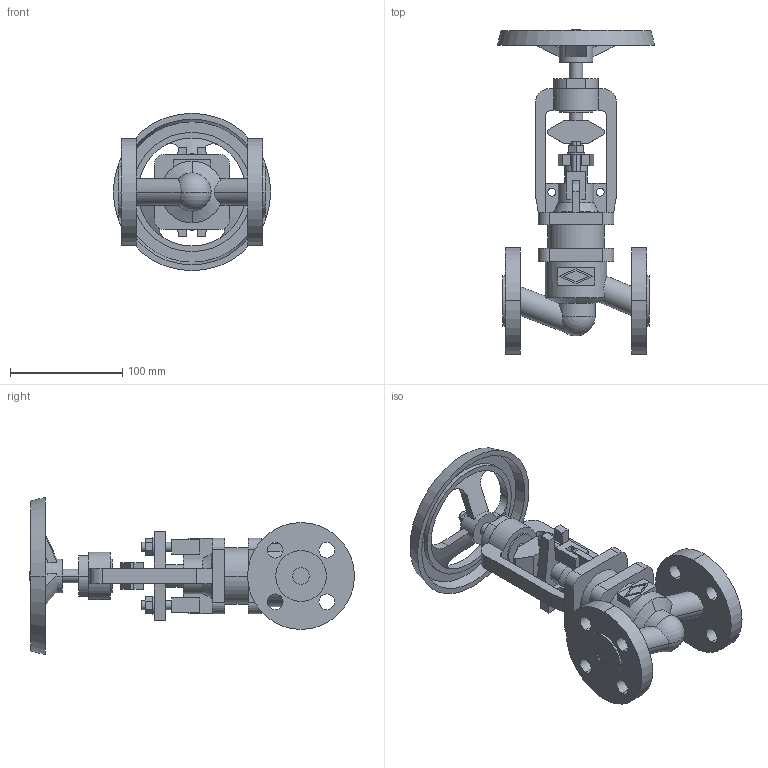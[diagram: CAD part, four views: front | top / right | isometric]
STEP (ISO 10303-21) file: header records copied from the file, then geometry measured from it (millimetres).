
FILE_DESCRIPTION(('OneSpaceDesigner STEP Export'),'2;1');
FILE_NAME('c000003757.stp','2009-06-16T11:00:16',(''),(''),'OneSpace Designer STEP processor for AP214 (Solid Model)','OneSpace Modeling 15.50B 03-Nov-2007 (C) CoCreate Software GmbH','');
FILE_SCHEMA(('AUTOMOTIVE_DESIGN { 1 0 10303 214 1 1 1 1 }'));
Length unit declared in the file: millimetre
Products named in the file (1): 1
Bounding box: 140 x 288.9 x 140 mm (x, y, z)
Volume: 700126.8 mm3; surface area: 147906.7 mm2
Topology: 1 solids, 1 shells, 283 faces, 740 edges, 484 vertices
Faces by surface type: plane 149, cylinder 107, cone 21, torus 4, sphere 2
Entity records: 10776 total; most frequent: CARTESIAN_POINT 1885, ORIENTED_EDGE 1476, DIRECTION 1229, EDGE_CURVE 738, VERTEX_POINT 484, VECTOR 435, LINE 435, AXIS2_PLACEMENT_3D 397
